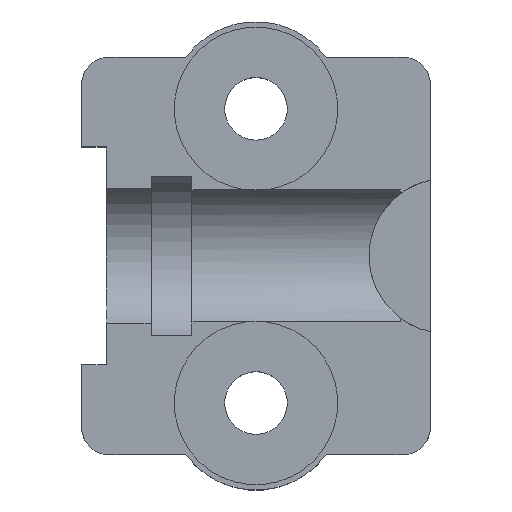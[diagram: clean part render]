
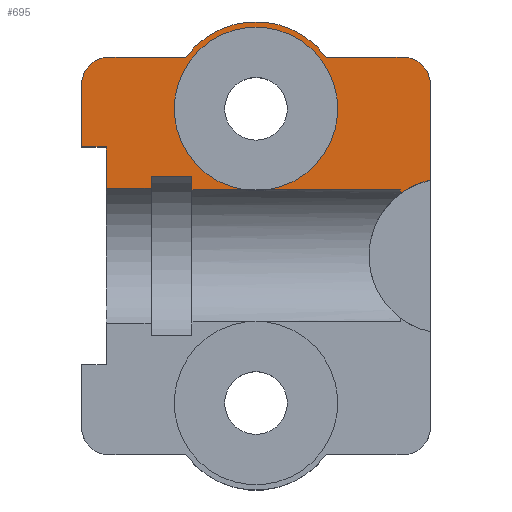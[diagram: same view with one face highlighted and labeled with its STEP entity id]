
A CAD part, top view. The second image highlights one B-rep face of the part: STEP entity #695.
In plain terms, the highlighted planar face has unit normal (0, 0, 1).
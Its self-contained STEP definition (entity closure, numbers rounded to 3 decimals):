
#43=FACE_OUTER_BOUND('',#86,.T.);
#86=EDGE_LOOP('',(#467,#468,#469,#470,#471,#472,#473,#474,#475,#476,#477,
#478,#479,#480,#481,#482,#483,#484));
#135=LINE('',#1060,#198);
#136=LINE('',#1061,#199);
#137=LINE('',#1063,#200);
#138=LINE('',#1065,#201);
#139=LINE('',#1069,#202);
#140=LINE('',#1073,#203);
#141=LINE('',#1077,#204);
#142=LINE('',#1081,#205);
#143=LINE('',#1083,#206);
#144=LINE('',#1085,#207);
#145=LINE('',#1087,#208);
#146=LINE('',#1089,#209);
#147=LINE('',#1090,#210);
#198=VECTOR('',#839,1.);
#199=VECTOR('',#840,1.);
#200=VECTOR('',#841,1.);
#201=VECTOR('',#842,1.);
#202=VECTOR('',#845,1.);
#203=VECTOR('',#848,1.);
#204=VECTOR('',#851,1.);
#205=VECTOR('',#854,1.);
#206=VECTOR('',#855,1.);
#207=VECTOR('',#856,1.);
#208=VECTOR('',#857,1.);
#209=VECTOR('',#858,1.);
#210=VECTOR('',#859,1.);
#260=CIRCLE('',#751,3.);
#262=CIRCLE('',#754,2.85);
#263=CIRCLE('',#755,1.);
#264=CIRCLE('',#756,3.2);
#265=CIRCLE('',#757,1.);
#296=VERTEX_POINT('',#1051);
#297=VERTEX_POINT('',#1052);
#299=VERTEX_POINT('',#1058);
#300=VERTEX_POINT('',#1059);
#301=VERTEX_POINT('',#1062);
#302=VERTEX_POINT('',#1064);
#303=VERTEX_POINT('',#1066);
#304=VERTEX_POINT('',#1068);
#305=VERTEX_POINT('',#1070);
#306=VERTEX_POINT('',#1072);
#307=VERTEX_POINT('',#1074);
#308=VERTEX_POINT('',#1076);
#309=VERTEX_POINT('',#1078);
#310=VERTEX_POINT('',#1080);
#311=VERTEX_POINT('',#1082);
#312=VERTEX_POINT('',#1084);
#313=VERTEX_POINT('',#1086);
#314=VERTEX_POINT('',#1088);
#362=EDGE_CURVE('',#296,#297,#260,.T.);
#365=EDGE_CURVE('',#299,#300,#135,.T.);
#366=EDGE_CURVE('',#299,#297,#136,.T.);
#367=EDGE_CURVE('',#296,#301,#137,.T.);
#368=EDGE_CURVE('',#302,#301,#138,.T.);
#369=EDGE_CURVE('',#303,#302,#262,.T.);
#370=EDGE_CURVE('',#303,#304,#139,.T.);
#371=EDGE_CURVE('',#304,#305,#263,.T.);
#372=EDGE_CURVE('',#306,#305,#140,.T.);
#373=EDGE_CURVE('',#306,#307,#264,.T.);
#374=EDGE_CURVE('',#308,#307,#141,.T.);
#375=EDGE_CURVE('',#308,#309,#265,.T.);
#376=EDGE_CURVE('',#310,#309,#142,.T.);
#377=EDGE_CURVE('',#311,#310,#143,.T.);
#378=EDGE_CURVE('',#312,#311,#144,.T.);
#379=EDGE_CURVE('',#312,#313,#145,.T.);
#380=EDGE_CURVE('',#313,#314,#146,.T.);
#381=EDGE_CURVE('',#314,#300,#147,.T.);
#467=ORIENTED_EDGE('',*,*,#365,.F.);
#468=ORIENTED_EDGE('',*,*,#366,.T.);
#469=ORIENTED_EDGE('',*,*,#362,.F.);
#470=ORIENTED_EDGE('',*,*,#367,.T.);
#471=ORIENTED_EDGE('',*,*,#368,.F.);
#472=ORIENTED_EDGE('',*,*,#369,.F.);
#473=ORIENTED_EDGE('',*,*,#370,.T.);
#474=ORIENTED_EDGE('',*,*,#371,.T.);
#475=ORIENTED_EDGE('',*,*,#372,.F.);
#476=ORIENTED_EDGE('',*,*,#373,.T.);
#477=ORIENTED_EDGE('',*,*,#374,.F.);
#478=ORIENTED_EDGE('',*,*,#375,.T.);
#479=ORIENTED_EDGE('',*,*,#376,.F.);
#480=ORIENTED_EDGE('',*,*,#377,.F.);
#481=ORIENTED_EDGE('',*,*,#378,.F.);
#482=ORIENTED_EDGE('',*,*,#379,.T.);
#483=ORIENTED_EDGE('',*,*,#380,.T.);
#484=ORIENTED_EDGE('',*,*,#381,.T.);
#669=PLANE('',#753);
#695=ADVANCED_FACE('',(#43),#669,.T.);
#751=AXIS2_PLACEMENT_3D('',#1053,#832,#833);
#753=AXIS2_PLACEMENT_3D('',#1057,#837,#838);
#754=AXIS2_PLACEMENT_3D('',#1067,#843,#844);
#755=AXIS2_PLACEMENT_3D('',#1071,#846,#847);
#756=AXIS2_PLACEMENT_3D('',#1075,#849,#850);
#757=AXIS2_PLACEMENT_3D('',#1079,#852,#853);
#832=DIRECTION('center_axis',(0.,0.,1.));
#833=DIRECTION('ref_axis',(1.,0.,0.));
#837=DIRECTION('center_axis',(0.,0.,1.));
#838=DIRECTION('ref_axis',(1.,0.,0.));
#839=DIRECTION('',(0.,1.,0.));
#840=DIRECTION('',(1.,0.,0.));
#841=DIRECTION('',(1.,0.,0.));
#842=DIRECTION('',(0.,1.,0.));
#843=DIRECTION('center_axis',(0.,0.,1.));
#844=DIRECTION('ref_axis',(1.,0.,0.));
#845=DIRECTION('',(0.,1.,0.));
#846=DIRECTION('center_axis',(0.,0.,1.));
#847=DIRECTION('ref_axis',(1.,0.,0.));
#848=DIRECTION('',(1.,0.,0.));
#849=DIRECTION('center_axis',(0.,0.,1.));
#850=DIRECTION('ref_axis',(1.,0.,0.));
#851=DIRECTION('',(1.,0.,0.));
#852=DIRECTION('center_axis',(0.,0.,1.));
#853=DIRECTION('ref_axis',(1.,0.,0.));
#854=DIRECTION('',(0.,1.,0.));
#855=DIRECTION('',(-1.,0.,0.));
#856=DIRECTION('',(0.,1.,0.));
#857=DIRECTION('',(1.,0.,0.));
#858=DIRECTION('',(0.,1.,0.));
#859=DIRECTION('',(1.,0.,0.));
#1051=CARTESIAN_POINT('',(-6.627,4.423,-8.3));
#1052=CARTESIAN_POINT('',(-7.373,4.423,-8.3));
#1053=CARTESIAN_POINT('Origin',(-7.,7.4,-8.3));
#1057=CARTESIAN_POINT('Origin',(-7.,2.,-8.3));
#1058=CARTESIAN_POINT('',(-9.35,4.423,-8.3));
#1059=CARTESIAN_POINT('',(-9.35,4.924,-8.3));
#1060=CARTESIAN_POINT('',(-9.35,2.,-8.3));
#1061=CARTESIAN_POINT('',(-9.35,4.423,-8.3));
#1062=CARTESIAN_POINT('',(-1.7,4.423,-8.3));
#1063=CARTESIAN_POINT('',(-9.35,4.423,-8.3));
#1064=CARTESIAN_POINT('',(-1.7,4.287,-8.3));
#1065=CARTESIAN_POINT('',(-1.7,2.,-8.3));
#1066=CARTESIAN_POINT('',(-0.6,4.786,-8.3));
#1067=CARTESIAN_POINT('Origin',(0.,2.,-8.3));
#1068=CARTESIAN_POINT('',(-0.6,8.3,-8.3));
#1069=CARTESIAN_POINT('',(-0.6,2.,-8.3));
#1070=CARTESIAN_POINT('',(-1.6,9.3,-8.3));
#1071=CARTESIAN_POINT('Origin',(-1.6,8.3,-8.3));
#1072=CARTESIAN_POINT('',(-4.425,9.3,-8.3));
#1073=CARTESIAN_POINT('',(-7.,9.3,-8.3));
#1074=CARTESIAN_POINT('',(-9.575,9.3,-8.3));
#1075=CARTESIAN_POINT('Origin',(-7.,7.4,-8.3));
#1076=CARTESIAN_POINT('',(-12.4,9.3,-8.3));
#1077=CARTESIAN_POINT('',(-7.,9.3,-8.3));
#1078=CARTESIAN_POINT('',(-13.4,8.3,-8.3));
#1079=CARTESIAN_POINT('Origin',(-12.4,8.3,-8.3));
#1080=CARTESIAN_POINT('',(-13.4,6.,-8.3));
#1081=CARTESIAN_POINT('',(-13.4,2.,-8.3));
#1082=CARTESIAN_POINT('',(-12.5,6.,-8.3));
#1083=CARTESIAN_POINT('',(-11.,6.,-8.3));
#1084=CARTESIAN_POINT('',(-12.5,4.48,-8.3));
#1085=CARTESIAN_POINT('',(-12.5,0.,-8.3));
#1086=CARTESIAN_POINT('',(-10.85,4.48,-8.3));
#1087=CARTESIAN_POINT('',(-15.6,4.48,-8.3));
#1088=CARTESIAN_POINT('',(-10.85,4.924,-8.3));
#1089=CARTESIAN_POINT('',(-10.85,2.,-8.3));
#1090=CARTESIAN_POINT('',(-10.85,4.924,-8.3));
